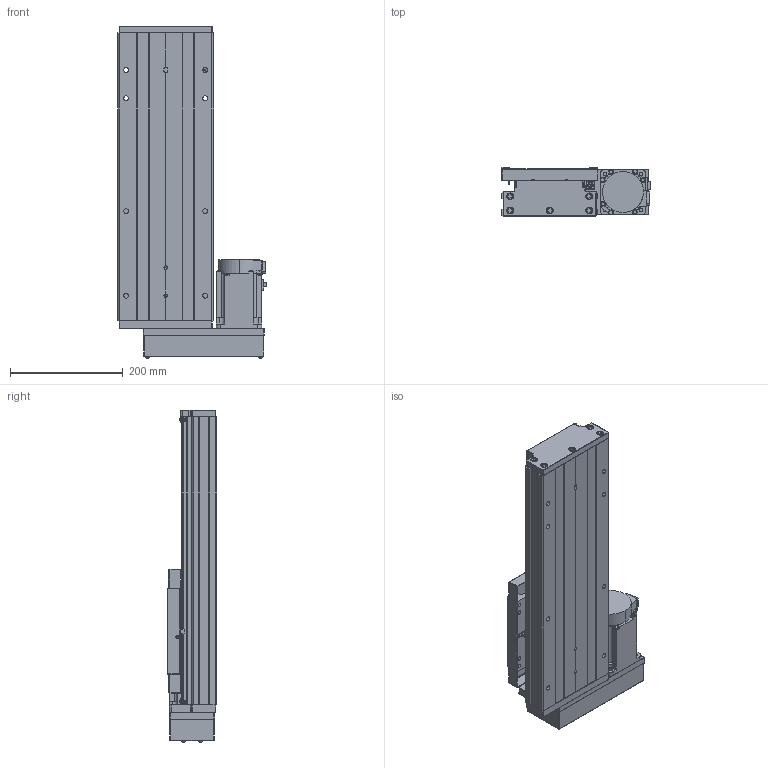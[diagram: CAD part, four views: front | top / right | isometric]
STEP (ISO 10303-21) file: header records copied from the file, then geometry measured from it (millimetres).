
FILE_DESCRIPTION (( 'STEP AP203' ), '1' );
FILE_NAME ('GTH17-250-BR-M75-C4.step', '2023-06-30T13:18:01', ( '微软用户' ), ( '微软中国' ), 'SwSTEP 2.0', 'SolidWorks 2020', '' );
FILE_SCHEMA (( 'CONFIG_CONTROL_DESIGN' ));
Length unit declared in the file: millimetre
Products named in the file (19): GBT77-2000 M3×3; GTH17-015-2_CTHA86-015-2; GTH17-005; GBT 70.1-M6¡Á20_M6¡Á20; GTH17-033; GB1155-6X6; GTH17-031; GTH17-250-BR-M75-C4; CTHA60-017; GBT 70.2-M3¡Á5_M3¡Á6; EE_SX911P_R; す晦芛蹟隊 M3℅5; GTH17-001_250; CTHA60-016; HG-KN73J-S100; GTH17-002_GTH17-002; GBT 70.1-M3℅5; GBT 70.2-M4¡Á45_M4¡Á35; GTH17-004
Assembly tree (58 placements, depth 2):
  GTH17-250-BR-M75-C4
    GTH17-001_250
    GTH17-002_GTH17-002
    GTH17-004
    GTH17-005
    GB1155-6X6  x2
    CTHA60-017  x3
    EE_SX911P_R  x3
    CTHA60-016  x2
    GBT 70.1-M3℅5  x6
    GBT77-2000 M3×3  x6
    GBT 70.1-M6¡Á20_M6¡Á20  x10
    GTH17-031
    GBT 70.2-M3¡Á5_M3¡Á6  x8
    す晦芛蹟隊 M3℅5  x6
    HG-KN73J-S100
    GBT 70.2-M4¡Á45_M4¡Á35  x4
    GTH17-015-2_CTHA86-015-2
    GTH17-033
Bounding box: 264.3 x 87 x 588.2 mm (x, y, z)
Volume: 5380627 mm3; surface area: 854154.2 mm2
Topology: 61 solids, 61 shells, 2429 faces, 5797 edges, 3587 vertices
Faces by surface type: plane 1306, cylinder 650, cone 297, torus 124, sphere 32, bspline 20
Entity records: 44122 total; most frequent: CARTESIAN_POINT 10266, DIRECTION 6361, ORIENTED_EDGE 6306, EDGE_CURVE 3153, AXIS2_PLACEMENT_3D 2160, LINE 2041, VECTOR 2041, VERTEX_POINT 1999
